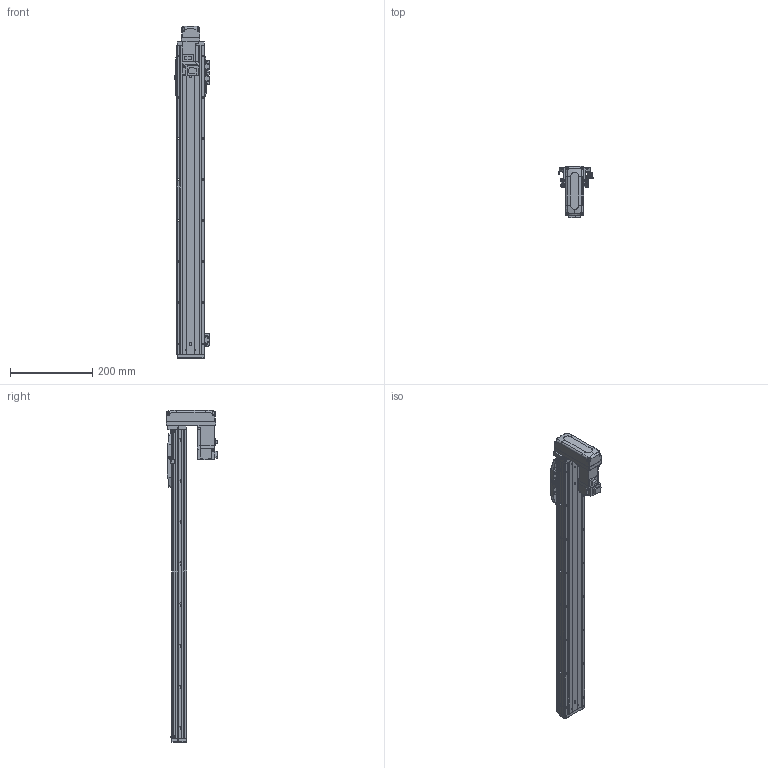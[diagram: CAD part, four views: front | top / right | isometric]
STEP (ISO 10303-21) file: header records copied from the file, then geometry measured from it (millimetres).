
FILE_DESCRIPTION (( 'STEP AP203' ), '1' );
FILE_NAME ('CTHA60-600-BM-M10-C4L.step', '2022-03-19T06:18:22', ( '微软用户' ), ( '微软中国' ), 'SwSTEP 2.0', 'SolidWorks 2020', '' );
FILE_SCHEMA (( 'CONFIG_CONTROL_DESIGN' ));
Length unit declared in the file: millimetre
Products named in the file (18): CTHA60-031; CTHA60-004; GBT77-2000 M3×3; CTHA60-006-1; CTHA60-005; GBT 70.1-M3℅6; CTHA60-033; GB¨uT 70.2-M3¡Á6_M3¡Á6; GBT 70.3-M3℅6; CTHA60-600-BM-M10-C4L; EE_SX911P_R; CTHA60-016; CTHA60-017; HG-KR13（三菱）; CTHA60-021; CTHA60-002; CTHA60-001_750; GBT 70.1-M4×16
Assembly tree (54 placements, depth 2):
  CTHA60-600-BM-M10-C4L
    CTHA60-001_750
    CTHA60-004
    CTHA60-005
    GB¨uT 70.2-M3¡Á6_M3¡Á6  x10
    EE_SX911P_R  x3
    CTHA60-017  x3
    CTHA60-021  x2
    GBT 70.1-M4×16  x10
    GBT77-2000 M3×3  x6
    GBT 70.1-M3℅6  x6
    GBT 70.3-M3℅6  x4
    CTHA60-016  x2
    HG-KR13（三菱）
    CTHA60-002
    CTHA60-031
    CTHA60-006-1
    CTHA60-033
Bounding box: 83.12 x 125.3 x 807 mm (x, y, z)
Volume: 1400774.8 mm3; surface area: 420457.4 mm2
Topology: 56 solids, 56 shells, 2534 faces, 6093 edges, 3757 vertices
Faces by surface type: plane 1461, cylinder 583, cone 342, torus 92, bspline 32, sphere 24
Entity records: 45657 total; most frequent: CARTESIAN_POINT 8810, DIRECTION 7056, ORIENTED_EDGE 6994, EDGE_CURVE 3497, LINE 2484, VECTOR 2484, AXIS2_PLACEMENT_3D 2286, VERTEX_POINT 2216
